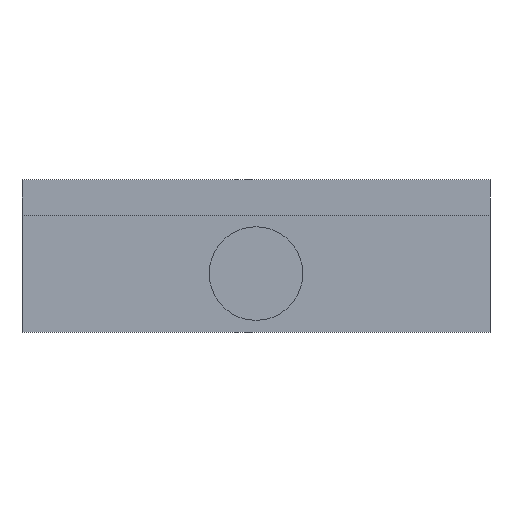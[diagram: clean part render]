
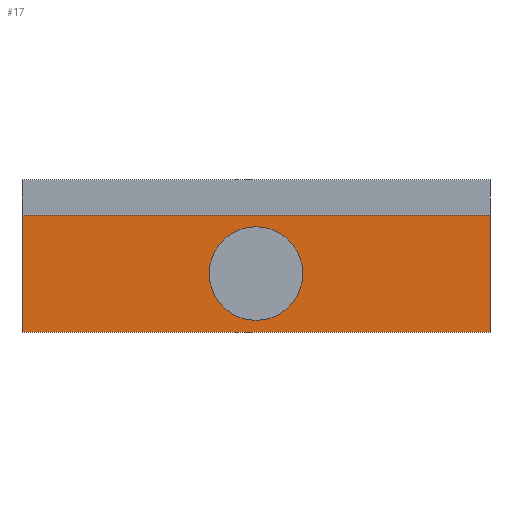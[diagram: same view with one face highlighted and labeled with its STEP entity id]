
A CAD part, left-side view. The second image highlights one B-rep face of the part: STEP entity #17.
In plain terms, the highlighted planar face has unit normal (-1, 0, 0).
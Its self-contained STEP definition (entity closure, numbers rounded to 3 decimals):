
#17 = ADVANCED_FACE('',(#18,#137),#32,.F.);
#18 = FACE_BOUND('',#19,.F.);
#19 = EDGE_LOOP('',(#20,#55,#83,#111));
#20 = ORIENTED_EDGE('',*,*,#21,.F.);
#21 = EDGE_CURVE('',#22,#24,#26,.T.);
#22 = VERTEX_POINT('',#23);
#23 = CARTESIAN_POINT('',(0.,0.,0.));
#24 = VERTEX_POINT('',#25);
#25 = CARTESIAN_POINT('',(0.,0.,20.));
#26 = SURFACE_CURVE('',#27,(#31,#43),.PCURVE_S1.);
#27 = LINE('',#28,#29);
#28 = CARTESIAN_POINT('',(0.,0.,0.));
#29 = VECTOR('',#30,1.);
#30 = DIRECTION('',(0.,0.,1.));
#31 = PCURVE('',#32,#37);
#32 = PLANE('',#33);
#33 = AXIS2_PLACEMENT_3D('',#34,#35,#36);
#34 = CARTESIAN_POINT('',(0.,0.,0.));
#35 = DIRECTION('',(1.,0.,-0.));
#36 = DIRECTION('',(0.,0.,1.));
#37 = DEFINITIONAL_REPRESENTATION('',(#38),#42);
#38 = LINE('',#39,#40);
#39 = CARTESIAN_POINT('',(0.,0.));
#40 = VECTOR('',#41,1.);
#41 = DIRECTION('',(1.,0.));
#42 = ( GEOMETRIC_REPRESENTATION_CONTEXT(2) 
PARAMETRIC_REPRESENTATION_CONTEXT() REPRESENTATION_CONTEXT('2D SPACE',''
  ) );
#43 = PCURVE('',#44,#49);
#44 = PLANE('',#45);
#45 = AXIS2_PLACEMENT_3D('',#46,#47,#48);
#46 = CARTESIAN_POINT('',(0.,0.,0.));
#47 = DIRECTION('',(-0.,1.,0.));
#48 = DIRECTION('',(0.,0.,1.));
#49 = DEFINITIONAL_REPRESENTATION('',(#50),#54);
#50 = LINE('',#51,#52);
#51 = CARTESIAN_POINT('',(0.,0.));
#52 = VECTOR('',#53,1.);
#53 = DIRECTION('',(1.,0.));
#54 = ( GEOMETRIC_REPRESENTATION_CONTEXT(2) 
PARAMETRIC_REPRESENTATION_CONTEXT() REPRESENTATION_CONTEXT('2D SPACE',''
  ) );
#55 = ORIENTED_EDGE('',*,*,#56,.T.);
#56 = EDGE_CURVE('',#22,#57,#59,.T.);
#57 = VERTEX_POINT('',#58);
#58 = CARTESIAN_POINT('',(0.,80.,0.));
#59 = SURFACE_CURVE('',#60,(#64,#71),.PCURVE_S1.);
#60 = LINE('',#61,#62);
#61 = CARTESIAN_POINT('',(0.,0.,0.));
#62 = VECTOR('',#63,1.);
#63 = DIRECTION('',(-0.,1.,0.));
#64 = PCURVE('',#32,#65);
#65 = DEFINITIONAL_REPRESENTATION('',(#66),#70);
#66 = LINE('',#67,#68);
#67 = CARTESIAN_POINT('',(0.,0.));
#68 = VECTOR('',#69,1.);
#69 = DIRECTION('',(0.,-1.));
#70 = ( GEOMETRIC_REPRESENTATION_CONTEXT(2) 
PARAMETRIC_REPRESENTATION_CONTEXT() REPRESENTATION_CONTEXT('2D SPACE',''
  ) );
#71 = PCURVE('',#72,#77);
#72 = PLANE('',#73);
#73 = AXIS2_PLACEMENT_3D('',#74,#75,#76);
#74 = CARTESIAN_POINT('',(0.,0.,0.));
#75 = DIRECTION('',(0.,0.,1.));
#76 = DIRECTION('',(1.,0.,-0.));
#77 = DEFINITIONAL_REPRESENTATION('',(#78),#82);
#78 = LINE('',#79,#80);
#79 = CARTESIAN_POINT('',(0.,0.));
#80 = VECTOR('',#81,1.);
#81 = DIRECTION('',(0.,1.));
#82 = ( GEOMETRIC_REPRESENTATION_CONTEXT(2) 
PARAMETRIC_REPRESENTATION_CONTEXT() REPRESENTATION_CONTEXT('2D SPACE',''
  ) );
#83 = ORIENTED_EDGE('',*,*,#84,.T.);
#84 = EDGE_CURVE('',#57,#85,#87,.T.);
#85 = VERTEX_POINT('',#86);
#86 = CARTESIAN_POINT('',(0.,80.,20.));
#87 = SURFACE_CURVE('',#88,(#92,#99),.PCURVE_S1.);
#88 = LINE('',#89,#90);
#89 = CARTESIAN_POINT('',(0.,80.,0.));
#90 = VECTOR('',#91,1.);
#91 = DIRECTION('',(0.,0.,1.));
#92 = PCURVE('',#32,#93);
#93 = DEFINITIONAL_REPRESENTATION('',(#94),#98);
#94 = LINE('',#95,#96);
#95 = CARTESIAN_POINT('',(0.,-80.));
#96 = VECTOR('',#97,1.);
#97 = DIRECTION('',(1.,0.));
#98 = ( GEOMETRIC_REPRESENTATION_CONTEXT(2) 
PARAMETRIC_REPRESENTATION_CONTEXT() REPRESENTATION_CONTEXT('2D SPACE',''
  ) );
#99 = PCURVE('',#100,#105);
#100 = PLANE('',#101);
#101 = AXIS2_PLACEMENT_3D('',#102,#103,#104);
#102 = CARTESIAN_POINT('',(0.,80.,0.));
#103 = DIRECTION('',(-0.,1.,0.));
#104 = DIRECTION('',(0.,0.,1.));
#105 = DEFINITIONAL_REPRESENTATION('',(#106),#110);
#106 = LINE('',#107,#108);
#107 = CARTESIAN_POINT('',(0.,0.));
#108 = VECTOR('',#109,1.);
#109 = DIRECTION('',(1.,0.));
#110 = ( GEOMETRIC_REPRESENTATION_CONTEXT(2) 
PARAMETRIC_REPRESENTATION_CONTEXT() REPRESENTATION_CONTEXT('2D SPACE',''
  ) );
#111 = ORIENTED_EDGE('',*,*,#112,.F.);
#112 = EDGE_CURVE('',#24,#85,#113,.T.);
#113 = SURFACE_CURVE('',#114,(#118,#125),.PCURVE_S1.);
#114 = LINE('',#115,#116);
#115 = CARTESIAN_POINT('',(0.,0.,20.));
#116 = VECTOR('',#117,1.);
#117 = DIRECTION('',(-0.,1.,0.));
#118 = PCURVE('',#32,#119);
#119 = DEFINITIONAL_REPRESENTATION('',(#120),#124);
#120 = LINE('',#121,#122);
#121 = CARTESIAN_POINT('',(20.,0.));
#122 = VECTOR('',#123,1.);
#123 = DIRECTION('',(0.,-1.));
#124 = ( GEOMETRIC_REPRESENTATION_CONTEXT(2) 
PARAMETRIC_REPRESENTATION_CONTEXT() REPRESENTATION_CONTEXT('2D SPACE',''
  ) );
#125 = PCURVE('',#126,#131);
#126 = PLANE('',#127);
#127 = AXIS2_PLACEMENT_3D('',#128,#129,#130);
#128 = CARTESIAN_POINT('',(0.,0.,20.));
#129 = DIRECTION('',(0.,0.,1.));
#130 = DIRECTION('',(1.,0.,-0.));
#131 = DEFINITIONAL_REPRESENTATION('',(#132),#136);
#132 = LINE('',#133,#134);
#133 = CARTESIAN_POINT('',(0.,0.));
#134 = VECTOR('',#135,1.);
#135 = DIRECTION('',(0.,1.));
#136 = ( GEOMETRIC_REPRESENTATION_CONTEXT(2) 
PARAMETRIC_REPRESENTATION_CONTEXT() REPRESENTATION_CONTEXT('2D SPACE',''
  ) );
#137 = FACE_BOUND('',#138,.F.);
#138 = EDGE_LOOP('',(#139));
#139 = ORIENTED_EDGE('',*,*,#140,.F.);
#140 = EDGE_CURVE('',#141,#141,#143,.T.);
#141 = VERTEX_POINT('',#142);
#142 = CARTESIAN_POINT('',(0.,40.,18.));
#143 = SURFACE_CURVE('',#144,(#149,#156),.PCURVE_S1.);
#144 = CIRCLE('',#145,8.);
#145 = AXIS2_PLACEMENT_3D('',#146,#147,#148);
#146 = CARTESIAN_POINT('',(0.,40.,10.));
#147 = DIRECTION('',(1.,0.,0.));
#148 = DIRECTION('',(-0.,0.,1.));
#149 = PCURVE('',#32,#150);
#150 = DEFINITIONAL_REPRESENTATION('',(#151),#155);
#151 = CIRCLE('',#152,8.);
#152 = AXIS2_PLACEMENT_2D('',#153,#154);
#153 = CARTESIAN_POINT('',(10.,-40.));
#154 = DIRECTION('',(1.,0.));
#155 = ( GEOMETRIC_REPRESENTATION_CONTEXT(2) 
PARAMETRIC_REPRESENTATION_CONTEXT() REPRESENTATION_CONTEXT('2D SPACE',''
  ) );
#156 = PCURVE('',#157,#162);
#157 = CYLINDRICAL_SURFACE('',#158,8.);
#158 = AXIS2_PLACEMENT_3D('',#159,#160,#161);
#159 = CARTESIAN_POINT('',(-12.,40.,10.));
#160 = DIRECTION('',(1.,0.,0.));
#161 = DIRECTION('',(-0.,0.,1.));
#162 = DEFINITIONAL_REPRESENTATION('',(#163),#167);
#163 = LINE('',#164,#165);
#164 = CARTESIAN_POINT('',(0.,12.));
#165 = VECTOR('',#166,1.);
#166 = DIRECTION('',(1.,0.));
#167 = ( GEOMETRIC_REPRESENTATION_CONTEXT(2) 
PARAMETRIC_REPRESENTATION_CONTEXT() REPRESENTATION_CONTEXT('2D SPACE',''
  ) );
